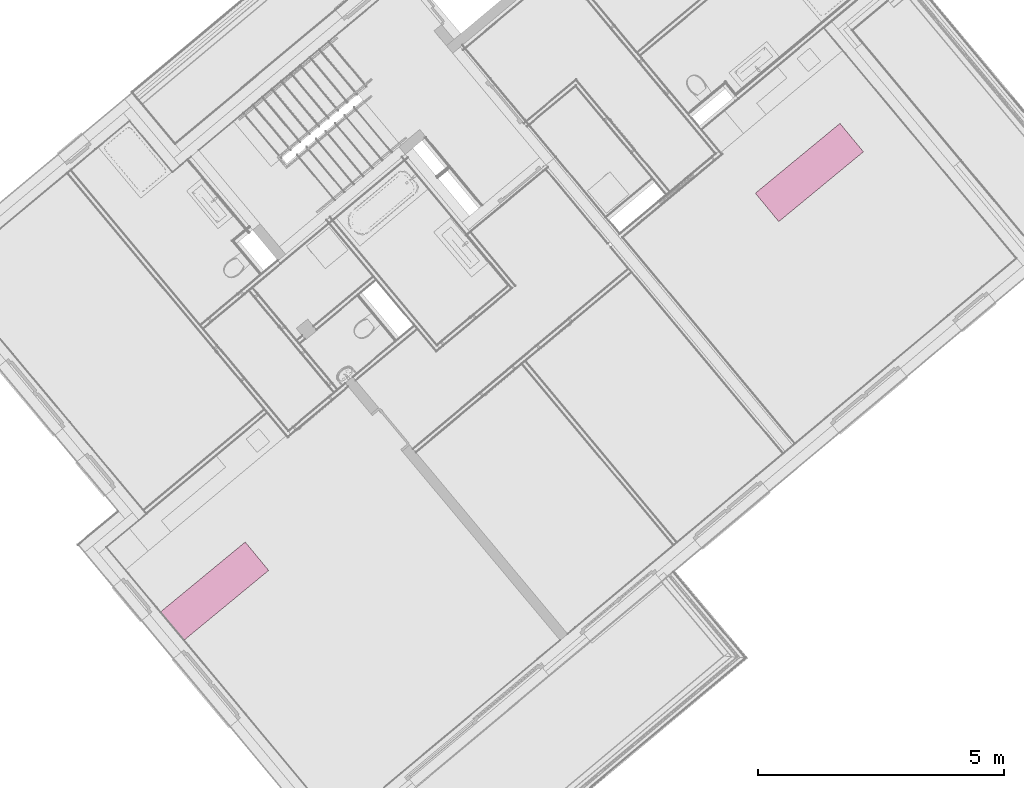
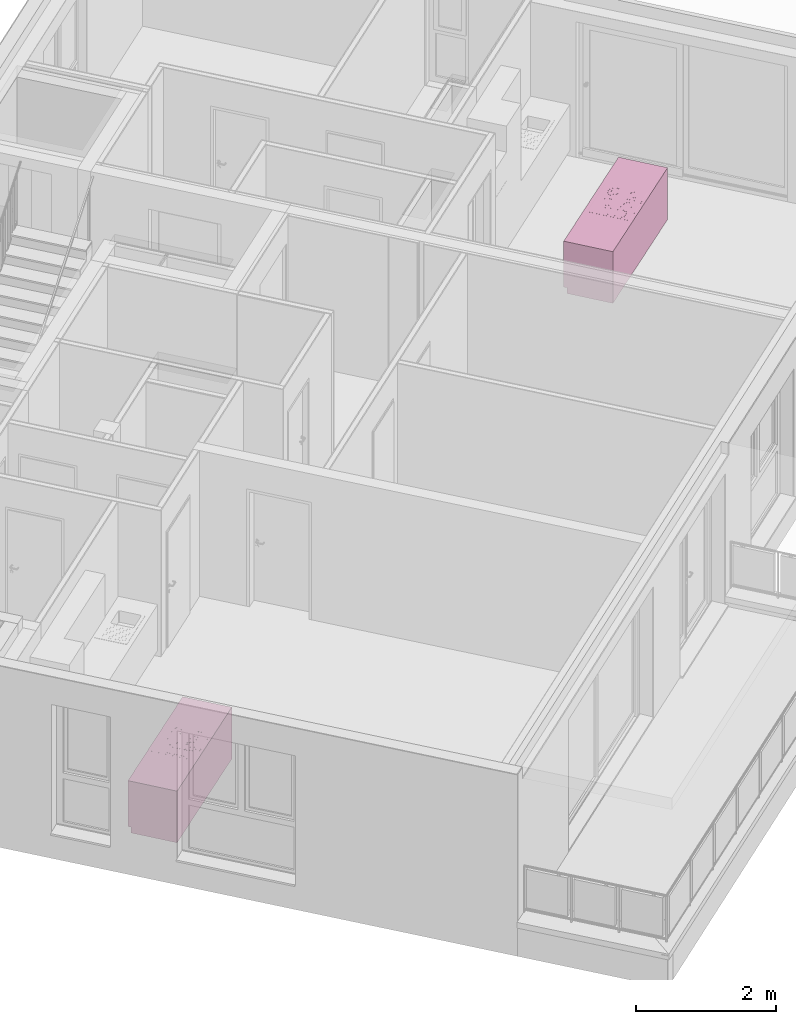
# One storey, part 48 of 50: 2 furniture elements.
"""IFC4 building model written with IfcOpenShell, lengths in metres."""

import ifcopenshell
import ifcopenshell.guid

model = None  # the IFC model being written
_history = None  # IfcOwnerHistory: only IFC2X3 demands one
_inside = {}  # id of a spatial element -> (the spatial element, [elements in it])
_under = {}  # id of a project, library or spatial element -> (it, [spatial elements below it])
_declared = {}  # id of a project -> (the project, [libraries it declares])
_typed = {}  # id of a type object -> (the type object, [elements of that type])
_made_of = {}  # id of a material, layer set ... -> (it, [elements and type objects made of it])


def new_model(schema):
    """Start an empty IFC model of exactly this schema.

    Asked for "IFC4X3", IfcOpenShell would pick the latest addendum, in which some entities
    have other attributes; the version numbers below select the first issue.
    IFC2X3 requires an IfcOwnerHistory on every rooted entity: one is made here for all.
    """
    global model, _history
    if schema == "IFC4X3":
        model = ifcopenshell.file(schema_version=(4, 3, 0, 0))
    else:
        model = ifcopenshell.file(schema=schema)
    _inside.clear()
    _under.clear()
    _declared.clear()
    _typed.clear()
    _made_of.clear()
    _history = None
    if model.schema == "IFC2X3":
        org = make("IfcOrganization", Name="unknown")
        user = make(
            "IfcPersonAndOrganization",
            ThePerson=make("IfcPerson", FamilyName="unknown"),
            TheOrganization=org,
        )
        app = make(
            "IfcApplication",
            ApplicationDeveloper=org,
            Version="unknown",
            ApplicationFullName="unknown",
            ApplicationIdentifier="unknown",
        )
        _history = make(
            "IfcOwnerHistory",
            OwningUser=user,
            OwningApplication=app,
            ChangeAction="ADDED",
            CreationDate=0,
        )
    return model


def make(cls, **values):
    """One entity of the class cls with the attributes given. An attribute that is None is left unset."""
    return model.create_entity(
        cls, **{name: value for name, value in values.items() if value is not None}
    )


def entity(cls, *values):
    """Any entity or typed value of the class cls, its attributes in the order of the schema. None: left unset."""
    e = model.create_entity(cls)
    for i, value in enumerate(values):
        if value is not None:
            e[i] = value
    return e


def rooted(cls, **values):
    """An entity with a GlobalId (a new one), such as an element, a storey or a relation."""
    return make(cls, GlobalId=ifcopenshell.guid.new(), OwnerHistory=_history, **values)


def si_unit(unit_type, name, prefix=None):
    """IfcSIUnit, for example si_unit("LENGTHUNIT", "METRE", prefix="MILLI")."""
    return make("IfcSIUnit", UnitType=unit_type, Prefix=prefix, Name=name)


def converted_unit(unit_type, name, factor, base, dimensions=None, offset=None):
    """IfcConversionBasedUnit, such as the inch: factor (a typed value) times the base unit."""
    return make(
        "IfcConversionBasedUnit"
        if offset is None
        else "IfcConversionBasedUnitWithOffset",
        ConversionOffset=offset,
        Dimensions=None
        if dimensions is None
        else entity("IfcDimensionalExponents", *dimensions),
        UnitType=unit_type,
        Name=name,
        ConversionFactor=make(
            "IfcMeasureWithUnit", ValueComponent=factor, UnitComponent=base
        ),
    )


def derived_unit(unit_type, elements):
    """IfcDerivedUnit: a product of units, each with its exponent."""
    return make(
        "IfcDerivedUnit",
        Elements=[
            make("IfcDerivedUnitElement", Unit=unit, Exponent=power)
            for unit, power in elements
        ],
        UnitType=unit_type,
    )


def assignment(units):
    """IfcUnitAssignment: the units of a project."""
    return None if units is None else make("IfcUnitAssignment", Units=units)


def point(xyz):
    """IfcCartesianPoint."""
    return None if xyz is None else make("IfcCartesianPoint", Coordinates=xyz)


def direction(xyz):
    """IfcDirection."""
    return None if xyz is None else make("IfcDirection", DirectionRatios=xyz)


def frame(location, z_axis=None, x_axis=None):
    """IfcAxis2Placement3D, a coordinate frame: its origin and axes. An axis left out is left unset."""
    return make(
        "IfcAxis2Placement3D",
        Location=point(location),
        Axis=direction(z_axis),
        RefDirection=direction(x_axis),
    )


def origin_with_axes():
    """The frame at (0, 0, 0) with the z axis (0, 0, 1) and the x axis (1, 0, 0) written out."""
    return frame((0.0, 0.0, 0.0), z_axis=(0.0, 0.0, 1.0), x_axis=(1.0, 0.0, 0.0))


def place(relative_to, where):
    """IfcLocalPlacement: puts the frame where relative to a parent placement (None: the world)."""
    return make(
        "IfcLocalPlacement", PlacementRelTo=relative_to, RelativePlacement=where
    )


def context(
    kind, dimensions, precision=None, world=None, true_north=None, identifier=None
):
    """IfcGeometricRepresentationContext, for example the 3D "Model" context."""
    return make(
        "IfcGeometricRepresentationContext",
        ContextIdentifier=identifier,
        ContextType=kind,
        CoordinateSpaceDimension=dimensions,
        Precision=precision,
        WorldCoordinateSystem=world,
        TrueNorth=true_north,
    )


def subcontext(parent, identifier, kind, view, scale=None):
    """IfcGeometricRepresentationSubContext, for example "Body" below "Model"."""
    return make(
        "IfcGeometricRepresentationSubContext",
        ContextIdentifier=identifier,
        ContextType=kind,
        ParentContext=parent,
        TargetScale=scale,
        TargetView=view,
    )


def project(units=None, contexts=None):
    """IfcProject with its units and contexts."""
    return rooted(
        "IfcProject",
        Name="project",
        RepresentationContexts=contexts,
        UnitsInContext=assignment(units),
    )


def spatial(cls, under=None, at=None, **own):
    """A site, building, storey or space (cls), placed at a placement, below another one or the project."""
    s = rooted(cls, ObjectPlacement=at, **own)
    if under is not None:
        _under.setdefault(under.id(), (under, []))[1].append(s)
    return s


def point_list(points):
    """IfcCartesianPointList2D or 3D."""
    cls = (
        "IfcCartesianPointList2D" if len(points[0]) == 2 else "IfcCartesianPointList3D"
    )
    return make(cls, CoordList=points)


def polygons(points, faces, closed=None, point_numbers=None):
    """IfcPolygonalFaceSet: a face is its outer loop, then its inner loops; points numbered from 1."""
    made = []
    for loops in faces:
        if len(loops) == 1:
            made.append(make("IfcIndexedPolygonalFace", CoordIndex=loops[0]))
        else:
            made.append(
                make(
                    "IfcIndexedPolygonalFaceWithVoids",
                    CoordIndex=loops[0],
                    InnerCoordIndices=loops[1:],
                )
            )
    return make(
        "IfcPolygonalFaceSet",
        Coordinates=point_list(points),
        Closed=closed,
        Faces=made,
        PnIndex=point_numbers,
    )


def shape(context_of_items, identifier, shape_type, items):
    """IfcShapeRepresentation: the items that make up one representation, for example the "Body"."""
    return make(
        "IfcShapeRepresentation",
        ContextOfItems=context_of_items,
        RepresentationIdentifier=identifier,
        RepresentationType=shape_type,
        Items=items,
    )


def source(mapping_origin, context_of_items, identifier, shape_type, items):
    """IfcRepresentationMap: a shape defined once, which mapped items show again and again."""
    return make(
        "IfcRepresentationMap",
        MappingOrigin=mapping_origin,
        MappedRepresentation=shape(context_of_items, identifier, shape_type, items),
    )


def transform(
    local_origin,
    x_axis=None,
    y_axis=None,
    z_axis=None,
    scale=None,
    scale2=None,
    scale3=None,
    uniform=True,
):
    """IfcCartesianTransformationOperator3D, or its non-uniform kind. x_axis, y_axis, z_axis: its Axis1, 2, 3."""
    if uniform:
        return make(
            "IfcCartesianTransformationOperator3D",
            Axis1=direction(x_axis),
            Axis2=direction(y_axis),
            LocalOrigin=point(local_origin),
            Scale=scale,
            Axis3=direction(z_axis),
        )
    return make(
        "IfcCartesianTransformationOperator3DnonUniform",
        Axis1=direction(x_axis),
        Axis2=direction(y_axis),
        LocalOrigin=point(local_origin),
        Scale=scale,
        Axis3=direction(z_axis),
        Scale2=scale2,
        Scale3=scale3,
    )


def mapped(mapping_source, mapping_target):
    """IfcMappedItem: shows the shape of a source again, moved by a transform."""
    return make(
        "IfcMappedItem", MappingSource=mapping_source, MappingTarget=mapping_target
    )


def made_of(thing, what):
    """Note that an element or type object is made of a material, layer set ...; save() writes the relation."""
    if what is not None:
        _made_of.setdefault(what.id(), (what, []))[1].append(thing)
    return thing


def type_object(cls, material=None, **own):
    """A type object (cls), such as IfcWallType, which elements share."""
    return made_of(rooted(cls, **own), material)


def element(
    cls,
    number,
    at=None,
    inside=None,
    cuts=None,
    type_object=None,
    material=None,
    context=None,
    identifier="Body",
    shape_type=None,
    held_by="IfcProductDefinitionShape",
    body=None,
    shapes=None,
    **own,
):
    """One element of the class cls, such as IfcWall. Its Tag is "e" and its number.

    at: its placement. inside: the storey or other place that contains it. cuts: it is an
    opening in that element (IfcRelVoidsElement). A single representation is given by context,
    identifier, shape_type and body (its items); several are given by shapes. held_by: the class
    of the entity that holds the representations. save() writes the other relations.
    """
    e = rooted(cls, Tag="e%d" % number, ObjectPlacement=at, **own)
    if body is not None:
        shapes = [shape(context, identifier, shape_type, body)]
    if shapes is not None:
        e.Representation = make(held_by, Representations=shapes)
    if inside is not None:
        _inside.setdefault(inside.id(), (inside, []))[1].append(e)
    if cuts is not None:
        rooted(
            "IfcRelVoidsElement", RelatingBuildingElement=cuts, RelatedOpeningElement=e
        )
    if type_object is not None:
        _typed.setdefault(type_object.id(), (type_object, []))[1].append(e)
    return made_of(e, material)


def aggregate(whole, parts):
    """IfcRelAggregates: a whole, such as a stair, and the parts it consists of."""
    return rooted("IfcRelAggregates", RelatingObject=whole, RelatedObjects=parts)


def save(model, path):
    """Write the relations noted so far, then the file.

    IfcRelAggregates (storeys below a building ...), IfcRelContainedInSpatialStructure (elements
    in a storey), IfcRelDefinesByType, IfcRelAssociatesMaterial and IfcRelDeclares: one each for
    every whole, place, type object, material and project.
    """
    for whole, parts in _under.values():
        aggregate(whole, parts)
    for where, things in _inside.values():
        rooted(
            "IfcRelContainedInSpatialStructure",
            RelatedElements=things,
            RelatingStructure=where,
        )
    for kind, things in _typed.values():
        rooted("IfcRelDefinesByType", RelatedObjects=things, RelatingType=kind)
    for what, things in _made_of.values():
        rooted("IfcRelAssociatesMaterial", RelatedObjects=things, RelatingMaterial=what)
    for by, libraries in _declared.values():
        rooted("IfcRelDeclares", RelatingContext=by, RelatedDefinitions=libraries)
    model.write(path)


model = new_model("IFC4")

# Units and contexts
model_context = context("Model", 3, precision=1e-05, world=origin_with_axes(), true_north=direction((0.0, 1.0)))
body_context = subcontext(model_context, "Body", "Model", "MODEL_VIEW")
ifc_project = project(units=[si_unit("LENGTHUNIT", "METRE"), si_unit("AREAUNIT", "SQUARE_METRE"), si_unit("VOLUMEUNIT", "CUBIC_METRE"), converted_unit("PLANEANGLEUNIT", "DEGREE", entity("IfcPlaneAngleMeasure", 0.0174532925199), si_unit("PLANEANGLEUNIT", "RADIAN"), dimensions=[0, 0, 0, 0, 0, 0, 0]), converted_unit("TIMEUNIT", "Year", entity("IfcTimeMeasure", 31556926.0), si_unit("TIMEUNIT", "SECOND"), dimensions=[0, 0, 1, 0, 0, 0, 0]), si_unit("MASSUNIT", "GRAM", prefix="KILO"), si_unit("THERMODYNAMICTEMPERATUREUNIT", "DEGREE_CELSIUS"), si_unit("LUMINOUSINTENSITYUNIT", "LUMEN"), si_unit("ENERGYUNIT", "JOULE", prefix="MEGA"), derived_unit("THERMALCONDUCTANCEUNIT", [(si_unit("POWERUNIT", "WATT"), 1), (si_unit("LENGTHUNIT", "METRE"), -1), (si_unit("THERMODYNAMICTEMPERATUREUNIT", "KELVIN"), -1)]), derived_unit("SPECIFICHEATCAPACITYUNIT", [(si_unit("ENERGYUNIT", "JOULE"), 1), (si_unit("MASSUNIT", "GRAM", prefix="KILO"), -1), (si_unit("THERMODYNAMICTEMPERATUREUNIT", "KELVIN"), -1)]), derived_unit("MASSDENSITYUNIT", [(si_unit("MASSUNIT", "GRAM", prefix="KILO"), 1), (si_unit("VOLUMEUNIT", "CUBIC_METRE"), -1)])], contexts=[model_context])

# Site, building, storey
site_placement = place(None, frame((-0.00153261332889, -0.00661245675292, 0.0), z_axis=(0.0, 0.0, 1.0), x_axis=(1.0, 0.0, 0.0)))
site = spatial("IfcSite", under=ifc_project, at=site_placement, Name="Site", CompositionType="ELEMENT")
building_placement = place(site_placement, origin_with_axes())
building = spatial("IfcBuilding", under=site, at=building_placement, Name="Building", CompositionType="ELEMENT")
storey_placement = place(building_placement, frame((0.0, 0.0, 2.74), z_axis=(0.0, 0.0, 1.0), x_axis=(1.0, 0.0, 0.0)))
storey = spatial("IfcBuildingStorey", under=building, at=storey_placement, Name="OG1", CompositionType="ELEMENT", Elevation=2.74)

# Furniture
furniture_type = type_object("IfcFurnitureType", Name="Konzeptküche 26", AssemblyPlace="NOTDEFINED", PredefinedType="NOTDEFINED")
shared_shape = source(origin_with_axes(), body_context, "Body", "Tessellation", [
    polygons([(0.451386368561, 0.0111886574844, 0.0), (2.6840690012, -0.00300580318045, 0.0), (2.6840690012, -0.00300580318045, 0.1), (0.451386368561, 0.0111886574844, 0.1), (0.455836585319, 0.711174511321, 0.0), (2.68851921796, 0.696980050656, 0.0), (2.68851921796, 0.696980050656, 0.1), (0.455836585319, 0.711174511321, 0.1)], [[[1, 2, 3, 4]], [[1, 5, 6, 2]], [[2, 6, 7, 3]], [[4, 3, 7, 8]], [[5, 1, 4, 8]], [[6, 5, 8, 7]]], closed=True),
    polygons([(0.451386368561, 0.0111886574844, 0.85), (2.6840690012, -0.00300580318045, 0.85), (2.6840690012, -0.00300580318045, 0.9), (0.451386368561, 0.0111886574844, 0.9), (0.456154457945, 0.76117350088, 0.85), (2.68883709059, 0.746979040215, 0.85), (2.68883709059, 0.746979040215, 0.9), (0.456154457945, 0.76117350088, 0.9)], [[[1, 2, 3, 4]], [[1, 5, 6, 2]], [[2, 6, 7, 3]], [[4, 3, 7, 8]], [[5, 1, 4, 8]], [[6, 5, 8, 7]]], closed=True),
    polygons([(0.451386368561, 0.0111886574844, 0.1), (2.6840690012, -0.00300580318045, 0.1), (2.6840690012, -0.00300580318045, 0.85), (0.451386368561, 0.0111886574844, 0.85), (0.456154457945, 0.76117350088, 0.1), (2.68883709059, 0.746979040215, 0.1), (2.68883709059, 0.746979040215, 0.85), (0.456154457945, 0.76117350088, 0.85)], [[[1, 2, 3, 4]], [[1, 5, 6, 2]], [[2, 6, 7, 3]], [[4, 3, 7, 8]], [[5, 1, 4, 8]], [[6, 5, 8, 7]]], closed=True),
    polygons([(2.01007115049, 0.701293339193, 0.9), (2.00593880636, 0.0513064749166, 0.9), (1.25595396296, 0.0560745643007, 0.9), (1.26008630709, 0.706061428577, 0.9), (2.01007115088, 0.70129333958, 0.9008), (2.00593880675, 0.0513064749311, 0.9008), (1.25595396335, 0.0560745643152, 0.9008), (1.26008630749, 0.706061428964, 0.9008), (2.00322248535, 0.694531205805, 0.901999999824), (1.99917667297, 0.0581551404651, 0.901999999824), (1.26280262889, 0.0628366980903, 0.901999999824), (1.26684844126, 0.69921276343, 0.901999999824)], [[[1, 2, 3, 4]], [[2, 1, 5, 6]], [[3, 2, 6, 7]], [[4, 3, 7, 8]], [[1, 4, 8, 5]], [[6, 5, 9, 10]], [[7, 6, 10, 11]], [[8, 7, 11, 12]], [[5, 8, 12, 9]], [[11, 10, 9, 12]]], closed=True),
    polygons([(1.95268579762, 0.208298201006, 0.902), (1.94734355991, 0.236077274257, 0.902), (1.94734355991, 0.236077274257, 0.903), (1.95268579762, 0.208298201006, 0.903), (1.9469907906, 0.180589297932, 0.902), (1.93112555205, 0.157168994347, 0.902), (1.9075054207, 0.141602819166, 0.902), (1.87972634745, 0.136260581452, 0.902), (1.85201744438, 0.141955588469, 0.902), (1.82859714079, 0.157820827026, 0.902), (1.81303096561, 0.181440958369, 0.902), (1.8076887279, 0.20922003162, 0.902), (1.81338373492, 0.236928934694, 0.902), (1.82924897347, 0.260349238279, 0.902), (1.85286910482, 0.275915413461, 0.902), (1.88064817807, 0.281257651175, 0.902), (1.90835708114, 0.275562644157, 0.902), (1.93177738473, 0.259697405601, 0.902), (1.94768589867, 0.208329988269, 0.902), (1.94271209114, 0.234193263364, 0.902), (1.92821944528, 0.256184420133, 0.902), (1.90641433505, 0.270955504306, 0.902), (1.8806163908, 0.276257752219, 0.902), (1.85475311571, 0.271283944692, 0.902), (1.83276195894, 0.256791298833, 0.902), (1.81799087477, 0.234986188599, 0.902), (1.81268862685, 0.209188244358, 0.902), (1.81766243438, 0.183324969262, 0.902), (1.83215508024, 0.161333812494, 0.902), (1.85396019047, 0.146562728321, 0.902), (1.87975813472, 0.141260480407, 0.902), (1.90562140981, 0.146234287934, 0.902), (1.92761256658, 0.160726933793, 0.902), (1.94238365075, 0.182532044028, 0.902), (1.93177738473, 0.259697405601, 0.903), (1.90835708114, 0.275562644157, 0.903), (1.88064817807, 0.281257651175, 0.903), (1.85286910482, 0.275915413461, 0.903), (1.82924897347, 0.260349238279, 0.903), (1.81338373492, 0.236928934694, 0.903), (1.8076887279, 0.20922003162, 0.903), (1.81303096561, 0.181440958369, 0.903), (1.82859714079, 0.157820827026, 0.903), (1.85201744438, 0.141955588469, 0.903), (1.87972634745, 0.136260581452, 0.903), (1.9075054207, 0.141602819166, 0.903), (1.93112555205, 0.157168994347, 0.903), (1.9469907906, 0.180589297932, 0.903), (1.94768589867, 0.208329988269, 0.903), (1.94238365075, 0.182532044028, 0.903), (1.92761256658, 0.160726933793, 0.903), (1.90562140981, 0.146234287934, 0.903), (1.87975813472, 0.141260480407, 0.903), (1.85396019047, 0.146562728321, 0.903), (1.83215508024, 0.161333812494, 0.903), (1.81766243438, 0.183324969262, 0.903), (1.81268862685, 0.209188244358, 0.903), (1.81799087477, 0.234986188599, 0.903), (1.83276195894, 0.256791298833, 0.903), (1.85475311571, 0.271283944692, 0.903), (1.8806163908, 0.276257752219, 0.903), (1.90641433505, 0.270955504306, 0.903), (1.92821944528, 0.256184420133, 0.903), (1.94271209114, 0.234193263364, 0.903)], [[[1, 2, 3, 4]], [[1, 5, 6, 7, 8, 9, 10, 11, 12, 13, 14, 15, 16, 17, 18, 2], [19, 20, 21, 22, 23, 24, 25, 26, 27, 28, 29, 30, 31, 32, 33, 34]], [[2, 18, 35, 3]], [[4, 3, 35, 36, 37, 38, 39, 40, 41, 42, 43, 44, 45, 46, 47, 48], [49, 50, 51, 52, 53, 54, 55, 56, 57, 58, 59, 60, 61, 62, 63, 64]], [[5, 1, 4, 48]], [[6, 5, 48, 47]], [[7, 6, 47, 46]], [[8, 7, 46, 45]], [[9, 8, 45, 44]], [[10, 9, 44, 43]], [[11, 10, 43, 42]], [[12, 11, 42, 41]], [[13, 12, 41, 40]], [[14, 13, 40, 39]], [[15, 14, 39, 38]], [[16, 15, 38, 37]], [[17, 16, 37, 36]], [[18, 17, 36, 35]], [[20, 19, 49, 64]], [[21, 20, 64, 63]], [[22, 21, 63, 62]], [[23, 22, 62, 61]], [[24, 23, 61, 60]], [[25, 24, 60, 59]], [[26, 25, 59, 58]], [[27, 26, 58, 57]], [[28, 27, 57, 56]], [[29, 28, 56, 55]], [[30, 29, 55, 54]], [[31, 30, 54, 53]], [[32, 31, 53, 52]], [[33, 32, 52, 51]], [[34, 33, 51, 50]], [[19, 34, 50, 49]]], closed=True),
    polygons([(1.9127590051, 0.495207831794, 0.902), (1.90833784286, 0.518197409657, 0.902), (1.90833784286, 0.518197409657, 0.903), (1.9127590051, 0.495207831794, 0.903), (1.90804589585, 0.472276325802, 0.902), (1.89491604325, 0.452894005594, 0.902), (1.87536834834, 0.44001165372, 0.902), (1.85237877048, 0.435590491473, 0.902), (1.82944726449, 0.440303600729, 0.902), (1.81006494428, 0.453433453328, 0.902), (1.7971825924, 0.472981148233, 0.902), (1.79276143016, 0.495970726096, 0.902), (1.79747453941, 0.518902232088, 0.902), (1.81060439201, 0.538284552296, 0.902), (1.83015208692, 0.551166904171, 0.902), (1.85314166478, 0.555588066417, 0.902), (1.87607317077, 0.550874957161, 0.902), (1.89545549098, 0.537745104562, 0.902), (1.90775910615, 0.495239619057, 0.902), (1.90370637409, 0.516313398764, 0.902), (1.89189755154, 0.534232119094, 0.902), (1.87413042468, 0.546267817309, 0.902), (1.85310987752, 0.550588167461, 0.902), (1.83203609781, 0.546535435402, 0.902), (1.81411737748, 0.53472661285, 0.902), (1.80208167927, 0.516959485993, 0.902), (1.79776132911, 0.495938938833, 0.902), (1.80181406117, 0.474865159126, 0.902), (1.81362288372, 0.456946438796, 0.902), (1.83139001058, 0.444910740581, 0.902), (1.85241055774, 0.440590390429, 0.902), (1.87348433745, 0.444643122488, 0.902), (1.89140305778, 0.45645194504, 0.902), (1.90343875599, 0.474219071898, 0.902), (1.89545549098, 0.537745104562, 0.903), (1.87607317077, 0.550874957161, 0.903), (1.85314166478, 0.555588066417, 0.903), (1.83015208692, 0.551166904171, 0.903), (1.81060439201, 0.538284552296, 0.903), (1.79747453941, 0.518902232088, 0.903), (1.79276143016, 0.495970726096, 0.903), (1.7971825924, 0.472981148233, 0.903), (1.81006494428, 0.453433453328, 0.903), (1.82944726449, 0.440303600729, 0.903), (1.85237877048, 0.435590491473, 0.903), (1.87536834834, 0.44001165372, 0.903), (1.89491604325, 0.452894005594, 0.903), (1.90804589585, 0.472276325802, 0.903), (1.90775910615, 0.495239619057, 0.903), (1.90343875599, 0.474219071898, 0.903), (1.89140305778, 0.45645194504, 0.903), (1.87348433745, 0.444643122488, 0.903), (1.85241055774, 0.440590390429, 0.903), (1.83139001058, 0.444910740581, 0.903), (1.81362288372, 0.456946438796, 0.903), (1.80181406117, 0.474865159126, 0.903), (1.79776132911, 0.495938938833, 0.903), (1.80208167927, 0.516959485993, 0.903), (1.81411737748, 0.53472661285, 0.903), (1.83203609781, 0.546535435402, 0.903), (1.85310987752, 0.550588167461, 0.903), (1.87413042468, 0.546267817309, 0.903), (1.89189755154, 0.534232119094, 0.903), (1.90370637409, 0.516313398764, 0.903)], [[[1, 2, 3, 4]], [[1, 5, 6, 7, 8, 9, 10, 11, 12, 13, 14, 15, 16, 17, 18, 2], [19, 20, 21, 22, 23, 24, 25, 26, 27, 28, 29, 30, 31, 32, 33, 34]], [[2, 18, 35, 3]], [[4, 3, 35, 36, 37, 38, 39, 40, 41, 42, 43, 44, 45, 46, 47, 48], [49, 50, 51, 52, 53, 54, 55, 56, 57, 58, 59, 60, 61, 62, 63, 64]], [[5, 1, 4, 48]], [[6, 5, 48, 47]], [[7, 6, 47, 46]], [[8, 7, 46, 45]], [[9, 8, 45, 44]], [[10, 9, 44, 43]], [[11, 10, 43, 42]], [[12, 11, 42, 41]], [[13, 12, 41, 40]], [[14, 13, 40, 39]], [[15, 14, 39, 38]], [[16, 15, 38, 37]], [[17, 16, 37, 36]], [[18, 17, 36, 35]], [[20, 19, 49, 64]], [[21, 20, 64, 63]], [[22, 21, 63, 62]], [[23, 22, 62, 61]], [[24, 23, 61, 60]], [[25, 24, 60, 59]], [[26, 25, 59, 58]], [[27, 26, 58, 57]], [[28, 27, 57, 56]], [[29, 28, 56, 55]], [[30, 29, 55, 54]], [[31, 30, 54, 53]], [[32, 31, 53, 52]], [[33, 32, 52, 51]], [[34, 33, 51, 50]], [[19, 34, 50, 49]]], closed=True),
    polygons([(1.95775809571, 0.494921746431, 0.902), (1.95002106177, 0.535153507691, 0.902), (1.95002106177, 0.535153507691, 0.903), (1.95775809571, 0.494921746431, 0.903), (1.94951015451, 0.454791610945, 0.902), (1.92653291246, 0.420872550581, 0.902), (1.89232444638, 0.3983284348, 0.902), (1.85209268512, 0.39059140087, 0.902), (1.81196254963, 0.398839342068, 0.902), (1.77804348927, 0.421816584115, 0.902), (1.75549937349, 0.456025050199, 0.902), (1.74776233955, 0.496256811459, 0.902), (1.75601028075, 0.536386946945, 0.902), (1.7789875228, 0.57030600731, 0.902), (1.81319598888, 0.59285012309, 0.902), (1.85342775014, 0.60058715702, 0.902), (1.89355788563, 0.592339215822, 0.902), (1.92747694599, 0.569361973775, 0.902), (1.95275819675, 0.494953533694, 0.902), (1.94538959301, 0.533269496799, 0.902), (1.92391900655, 0.565848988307, 0.902), (1.89161513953, 0.587732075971, 0.902), (1.85339596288, 0.595587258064, 0.902), (1.81507999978, 0.588218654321, 0.902), (1.78250050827, 0.566748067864, 0.902), (1.7606174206, 0.53444420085, 0.902), (1.75276223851, 0.496225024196, 0.902), (1.76013084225, 0.457909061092, 0.902), (1.78160142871, 0.425329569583, 0.902), (1.81390529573, 0.403446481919, 0.902), (1.85212447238, 0.395591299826, 0.902), (1.89044043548, 0.402959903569, 0.902), (1.92301992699, 0.424430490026, 0.902), (1.94490301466, 0.456734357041, 0.902), (1.92747694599, 0.569361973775, 0.903), (1.89355788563, 0.592339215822, 0.903), (1.85342775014, 0.60058715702, 0.903), (1.81319598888, 0.59285012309, 0.903), (1.7789875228, 0.57030600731, 0.903), (1.75601028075, 0.536386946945, 0.903), (1.74776233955, 0.496256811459, 0.903), (1.75549937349, 0.456025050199, 0.903), (1.77804348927, 0.421816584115, 0.903), (1.81196254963, 0.398839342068, 0.903), (1.85209268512, 0.39059140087, 0.903), (1.89232444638, 0.3983284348, 0.903), (1.92653291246, 0.420872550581, 0.903), (1.94951015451, 0.454791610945, 0.903), (1.95275819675, 0.494953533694, 0.903), (1.94490301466, 0.456734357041, 0.903), (1.92301992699, 0.424430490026, 0.903), (1.89044043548, 0.402959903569, 0.903), (1.85212447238, 0.395591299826, 0.903), (1.81390529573, 0.403446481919, 0.903), (1.78160142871, 0.425329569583, 0.903), (1.76013084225, 0.457909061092, 0.903), (1.75276223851, 0.496225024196, 0.903), (1.7606174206, 0.53444420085, 0.903), (1.78250050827, 0.566748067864, 0.903), (1.81507999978, 0.588218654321, 0.903), (1.85339596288, 0.595587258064, 0.903), (1.89161513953, 0.587732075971, 0.903), (1.92391900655, 0.565848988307, 0.903), (1.94538959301, 0.533269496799, 0.903)], [[[1, 2, 3, 4]], [[1, 5, 6, 7, 8, 9, 10, 11, 12, 13, 14, 15, 16, 17, 18, 2], [19, 20, 21, 22, 23, 24, 25, 26, 27, 28, 29, 30, 31, 32, 33, 34]], [[2, 18, 35, 3]], [[4, 3, 35, 36, 37, 38, 39, 40, 41, 42, 43, 44, 45, 46, 47, 48], [49, 50, 51, 52, 53, 54, 55, 56, 57, 58, 59, 60, 61, 62, 63, 64]], [[5, 1, 4, 48]], [[6, 5, 48, 47]], [[7, 6, 47, 46]], [[8, 7, 46, 45]], [[9, 8, 45, 44]], [[10, 9, 44, 43]], [[11, 10, 43, 42]], [[12, 11, 42, 41]], [[13, 12, 41, 40]], [[14, 13, 40, 39]], [[15, 14, 39, 38]], [[16, 15, 38, 37]], [[17, 16, 37, 36]], [[18, 17, 36, 35]], [[20, 19, 49, 64]], [[21, 20, 64, 63]], [[22, 21, 63, 62]], [[23, 22, 62, 61]], [[24, 23, 61, 60]], [[25, 24, 60, 59]], [[26, 25, 59, 58]], [[27, 26, 58, 57]], [[28, 27, 57, 56]], [[29, 28, 56, 55]], [[30, 29, 55, 54]], [[31, 30, 54, 53]], [[32, 31, 53, 52]], [[33, 32, 52, 51]], [[34, 33, 51, 50]], [[19, 34, 50, 49]]], closed=True),
    polygons([(1.67867067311, 0.206790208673, 0.902), (1.67351265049, 0.233611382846, 0.902), (1.67351265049, 0.233611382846, 0.903), (1.67867067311, 0.206790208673, 0.903), (1.67317204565, 0.180036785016, 0.902), (1.65785388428, 0.157424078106, 0.902), (1.63504824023, 0.142394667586, 0.902), (1.60822706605, 0.137236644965, 0.902), (1.5814736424, 0.142735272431, 0.902), (1.55886093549, 0.158053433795, 0.902), (1.54383152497, 0.180859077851, 0.902), (1.53867350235, 0.207680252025, 0.902), (1.54417212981, 0.234433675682, 0.902), (1.55949029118, 0.257046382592, 0.902), (1.58229593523, 0.272075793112, 0.902), (1.60911710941, 0.277233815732, 0.902), (1.63587053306, 0.271735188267, 0.902), (1.65848323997, 0.256417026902, 0.902), (1.67367077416, 0.206821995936, 0.902), (1.66888118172, 0.231727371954, 0.902), (1.65492530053, 0.252904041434, 0.902), (1.63392778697, 0.267128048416, 0.902), (1.60908532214, 0.272233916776, 0.902), (1.58417994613, 0.267444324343, 0.902), (1.56300327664, 0.253488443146, 0.902), (1.54877926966, 0.232490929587, 0.902), (1.5436734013, 0.207648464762, 0.902), (1.54846299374, 0.182743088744, 0.902), (1.56241887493, 0.161566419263, 0.902), (1.58341638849, 0.147342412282, 0.902), (1.60825885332, 0.142236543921, 0.902), (1.63316422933, 0.147026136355, 0.902), (1.65434089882, 0.160982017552, 0.902), (1.6685649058, 0.181979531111, 0.902), (1.65848323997, 0.256417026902, 0.903), (1.63587053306, 0.271735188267, 0.903), (1.60911710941, 0.277233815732, 0.903), (1.58229593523, 0.272075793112, 0.903), (1.55949029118, 0.257046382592, 0.903), (1.54417212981, 0.234433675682, 0.903), (1.53867350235, 0.207680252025, 0.903), (1.54383152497, 0.180859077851, 0.903), (1.55886093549, 0.158053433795, 0.903), (1.5814736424, 0.142735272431, 0.903), (1.60822706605, 0.137236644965, 0.903), (1.63504824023, 0.142394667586, 0.903), (1.65785388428, 0.157424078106, 0.903), (1.67317204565, 0.180036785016, 0.903), (1.67367077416, 0.206821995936, 0.903), (1.6685649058, 0.181979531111, 0.903), (1.65434089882, 0.160982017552, 0.903), (1.63316422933, 0.147026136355, 0.903), (1.60825885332, 0.142236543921, 0.903), (1.58341638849, 0.147342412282, 0.903), (1.56241887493, 0.161566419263, 0.903), (1.54846299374, 0.182743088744, 0.903), (1.5436734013, 0.207648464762, 0.903), (1.54877926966, 0.232490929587, 0.903), (1.56300327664, 0.253488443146, 0.903), (1.58417994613, 0.267444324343, 0.903), (1.60908532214, 0.272233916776, 0.903), (1.63392778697, 0.267128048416, 0.903), (1.65492530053, 0.252904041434, 0.903), (1.66888118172, 0.231727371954, 0.903)], [[[1, 2, 3, 4]], [[1, 5, 6, 7, 8, 9, 10, 11, 12, 13, 14, 15, 16, 17, 18, 2], [19, 20, 21, 22, 23, 24, 25, 26, 27, 28, 29, 30, 31, 32, 33, 34]], [[2, 18, 35, 3]], [[4, 3, 35, 36, 37, 38, 39, 40, 41, 42, 43, 44, 45, 46, 47, 48], [49, 50, 51, 52, 53, 54, 55, 56, 57, 58, 59, 60, 61, 62, 63, 64]], [[5, 1, 4, 48]], [[6, 5, 48, 47]], [[7, 6, 47, 46]], [[8, 7, 46, 45]], [[9, 8, 45, 44]], [[10, 9, 44, 43]], [[11, 10, 43, 42]], [[12, 11, 42, 41]], [[13, 12, 41, 40]], [[14, 13, 40, 39]], [[15, 14, 39, 38]], [[16, 15, 38, 37]], [[17, 16, 37, 36]], [[18, 17, 36, 35]], [[20, 19, 49, 64]], [[21, 20, 64, 63]], [[22, 21, 63, 62]], [[23, 22, 62, 61]], [[24, 23, 61, 60]], [[25, 24, 60, 59]], [[26, 25, 59, 58]], [[27, 26, 58, 57]], [[28, 27, 57, 56]], [[29, 28, 56, 55]], [[30, 29, 55, 54]], [[31, 30, 54, 53]], [[32, 31, 53, 52]], [[33, 32, 52, 51]], [[34, 33, 51, 50]], [[19, 34, 50, 49]]], closed=True),
    polygons([(1.67698381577, 0.511657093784, 0.902), (1.6703520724, 0.546141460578, 0.902), (1.6703520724, 0.546141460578, 0.903), (1.67698381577, 0.511657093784, 0.903), (1.66991415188, 0.477259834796, 0.902), (1.65021937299, 0.448186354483, 0.902), (1.62089783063, 0.428862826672, 0.902), (1.58641346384, 0.422231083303, 0.902), (1.55201620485, 0.429300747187, 0.902), (1.52294272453, 0.448995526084, 0.902), (1.50361919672, 0.478317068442, 0.902), (1.49698745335, 0.512801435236, 0.902), (1.50405711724, 0.547198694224, 0.902), (1.52375189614, 0.576272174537, 0.902), (1.55307343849, 0.595595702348, 0.902), (1.58755780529, 0.602227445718, 0.902), (1.62195506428, 0.595157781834, 0.902), (1.65102854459, 0.575463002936, 0.902), (1.67198391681, 0.511688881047, 0.902), (1.66572060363, 0.544257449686, 0.902), (1.64747060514, 0.571950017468, 0.902), (1.62001231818, 0.590550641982, 0.902), (1.58752601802, 0.597227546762, 0.902), (1.55495744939, 0.590964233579, 0.902), (1.5272648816, 0.572714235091, 0.902), (1.50866425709, 0.545255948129, 0.902), (1.50198735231, 0.512769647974, 0.902), (1.50825066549, 0.480201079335, 0.902), (1.52650066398, 0.452508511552, 0.902), (1.55395895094, 0.433907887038, 0.902), (1.5864452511, 0.427230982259, 0.902), (1.61901381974, 0.433494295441, 0.902), (1.64670638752, 0.451744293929, 0.902), (1.66530701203, 0.479202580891, 0.902), (1.65102854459, 0.575463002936, 0.903), (1.62195506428, 0.595157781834, 0.903), (1.58755780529, 0.602227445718, 0.903), (1.55307343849, 0.595595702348, 0.903), (1.52375189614, 0.576272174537, 0.903), (1.50405711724, 0.547198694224, 0.903), (1.49698745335, 0.512801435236, 0.903), (1.50361919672, 0.478317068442, 0.903), (1.52294272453, 0.448995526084, 0.903), (1.55201620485, 0.429300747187, 0.903), (1.58641346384, 0.422231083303, 0.903), (1.62089783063, 0.428862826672, 0.903), (1.65021937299, 0.448186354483, 0.903), (1.66991415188, 0.477259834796, 0.903), (1.67198391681, 0.511688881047, 0.903), (1.66530701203, 0.479202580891, 0.903), (1.64670638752, 0.451744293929, 0.903), (1.61901381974, 0.433494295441, 0.903), (1.5864452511, 0.427230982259, 0.903), (1.55395895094, 0.433907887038, 0.903), (1.52650066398, 0.452508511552, 0.903), (1.50825066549, 0.480201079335, 0.903), (1.50198735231, 0.512769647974, 0.903), (1.50866425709, 0.545255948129, 0.903), (1.5272648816, 0.572714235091, 0.903), (1.55495744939, 0.590964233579, 0.903), (1.58752601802, 0.597227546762, 0.903), (1.62001231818, 0.590550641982, 0.903), (1.64747060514, 0.571950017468, 0.903), (1.66572060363, 0.544257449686, 0.903)], [[[1, 2, 3, 4]], [[1, 5, 6, 7, 8, 9, 10, 11, 12, 13, 14, 15, 16, 17, 18, 2], [19, 20, 21, 22, 23, 24, 25, 26, 27, 28, 29, 30, 31, 32, 33, 34]], [[2, 18, 35, 3]], [[4, 3, 35, 36, 37, 38, 39, 40, 41, 42, 43, 44, 45, 46, 47, 48], [49, 50, 51, 52, 53, 54, 55, 56, 57, 58, 59, 60, 61, 62, 63, 64]], [[5, 1, 4, 48]], [[6, 5, 48, 47]], [[7, 6, 47, 46]], [[8, 7, 46, 45]], [[9, 8, 45, 44]], [[10, 9, 44, 43]], [[11, 10, 43, 42]], [[12, 11, 42, 41]], [[13, 12, 41, 40]], [[14, 13, 40, 39]], [[15, 14, 39, 38]], [[16, 15, 38, 37]], [[17, 16, 37, 36]], [[18, 17, 36, 35]], [[20, 19, 49, 64]], [[21, 20, 64, 63]], [[22, 21, 63, 62]], [[23, 22, 62, 61]], [[24, 23, 61, 60]], [[25, 24, 60, 59]], [[26, 25, 59, 58]], [[27, 26, 58, 57]], [[28, 27, 57, 56]], [[29, 28, 56, 55]], [[30, 29, 55, 54]], [[31, 30, 54, 53]], [[32, 31, 53, 52]], [[33, 32, 52, 51]], [[34, 33, 51, 50]], [[19, 34, 50, 49]]], closed=True),
    polygons([(1.72815115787, 0.294201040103, 0.902), (1.49030841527, 0.295713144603, 0.902), (1.49030841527, 0.295713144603, 0.903), (1.72815115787, 0.294201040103, 0.903), (1.73655937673, 0.292472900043, 0.902), (1.74366622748, 0.287658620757, 0.902), (1.7483897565, 0.280491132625, 0.902), (1.75001084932, 0.272061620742, 0.902), (1.74917517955, 0.140617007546, 0.902), (1.74744703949, 0.132208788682, 0.902), (1.7426327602, 0.125101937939, 0.902), (1.73546527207, 0.120378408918, 0.902), (1.72703576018, 0.118757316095, 0.902), (1.48919301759, 0.120269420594, 0.902), (1.48078479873, 0.121997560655, 0.902), (1.47367794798, 0.126811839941, 0.902), (1.46895441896, 0.133979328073, 0.902), (1.46733332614, 0.142408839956, 0.902), (1.46816899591, 0.273853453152, 0.902), (1.46989713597, 0.282261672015, 0.902), (1.47471141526, 0.289368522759, 0.902), (1.48187890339, 0.294092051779, 0.902), (1.72406760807, 0.123776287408, 0.902), (1.73173080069, 0.125250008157, 0.902), (1.738246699, 0.129544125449, 0.902), (1.74262331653, 0.136004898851, 0.902), (1.74419435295, 0.143648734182, 0.902), (1.74499187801, 0.269093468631, 0.902), (1.74351815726, 0.276756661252, 0.902), (1.73922403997, 0.283272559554, 0.902), (1.73276326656, 0.287649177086, 0.902), (1.72511943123, 0.289220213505, 0.902), (1.49327656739, 0.290694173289, 0.902), (1.48561337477, 0.28922045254, 0.902), (1.47909747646, 0.284926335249, 0.902), (1.47472085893, 0.278465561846, 0.902), (1.47314982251, 0.270821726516, 0.902), (1.47235229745, 0.145376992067, 0.902), (1.4738260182, 0.137713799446, 0.902), (1.47812013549, 0.131197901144, 0.902), (1.4845809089, 0.126821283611, 0.902), (1.49222474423, 0.125250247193, 0.902), (1.48187890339, 0.294092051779, 0.903), (1.47471141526, 0.289368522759, 0.903), (1.46989713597, 0.282261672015, 0.903), (1.46816899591, 0.273853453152, 0.903), (1.46733332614, 0.142408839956, 0.903), (1.46895441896, 0.133979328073, 0.903), (1.47367794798, 0.126811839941, 0.903), (1.48078479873, 0.121997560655, 0.903), (1.48919301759, 0.120269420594, 0.903), (1.72703576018, 0.118757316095, 0.903), (1.73546527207, 0.120378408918, 0.903), (1.7426327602, 0.125101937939, 0.903), (1.74744703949, 0.132208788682, 0.903), (1.74917517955, 0.140617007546, 0.903), (1.75001084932, 0.272061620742, 0.903), (1.7483897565, 0.280491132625, 0.903), (1.74366622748, 0.287658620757, 0.903), (1.73655937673, 0.292472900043, 0.903), (1.72406760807, 0.123776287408, 0.903), (1.49222474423, 0.125250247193, 0.903), (1.4845809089, 0.126821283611, 0.903), (1.47812013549, 0.131197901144, 0.903), (1.4738260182, 0.137713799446, 0.903), (1.47235229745, 0.145376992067, 0.903), (1.47314982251, 0.270821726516, 0.903), (1.47472085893, 0.278465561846, 0.903), (1.47909747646, 0.284926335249, 0.903), (1.48561337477, 0.28922045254, 0.903), (1.49327656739, 0.290694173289, 0.903), (1.72511943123, 0.289220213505, 0.903), (1.73276326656, 0.287649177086, 0.903), (1.73922403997, 0.283272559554, 0.903), (1.74351815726, 0.276756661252, 0.903), (1.74499187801, 0.269093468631, 0.903), (1.74419435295, 0.143648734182, 0.903), (1.74262331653, 0.136004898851, 0.903), (1.738246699, 0.129544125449, 0.903), (1.73173080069, 0.125250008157, 0.903)], [[[1, 2, 3, 4]], [[1, 5, 6, 7, 8, 9, 10, 11, 12, 13, 14, 15, 16, 17, 18, 19, 20, 21, 22, 2], [23, 24, 25, 26, 27, 28, 29, 30, 31, 32, 33, 34, 35, 36, 37, 38, 39, 40, 41, 42]], [[2, 22, 43, 3]], [[4, 3, 43, 44, 45, 46, 47, 48, 49, 50, 51, 52, 53, 54, 55, 56, 57, 58, 59, 60], [61, 62, 63, 64, 65, 66, 67, 68, 69, 70, 71, 72, 73, 74, 75, 76, 77, 78, 79, 80]], [[5, 1, 4, 60]], [[6, 5, 60, 59]], [[7, 6, 59, 58]], [[8, 7, 58, 57]], [[9, 8, 57, 56]], [[10, 9, 56, 55]], [[11, 10, 55, 54]], [[12, 11, 54, 53]], [[13, 12, 53, 52]], [[14, 13, 52, 51]], [[15, 14, 51, 50]], [[16, 15, 50, 49]], [[17, 16, 49, 48]], [[18, 17, 48, 47]], [[19, 18, 47, 46]], [[20, 19, 46, 45]], [[21, 20, 45, 44]], [[22, 21, 44, 43]], [[24, 23, 61, 80]], [[25, 24, 80, 79]], [[26, 25, 79, 78]], [[27, 26, 78, 77]], [[28, 27, 77, 76]], [[29, 28, 76, 75]], [[30, 29, 75, 74]], [[31, 30, 74, 73]], [[32, 31, 73, 72]], [[33, 32, 72, 71]], [[34, 33, 71, 70]], [[35, 34, 70, 69]], [[36, 35, 69, 68]], [[37, 36, 68, 67]], [[38, 37, 67, 66]], [[39, 38, 66, 65]], [[40, 39, 65, 64]], [[41, 40, 64, 63]], [[42, 41, 63, 62]], [[23, 42, 62, 61]]], closed=True),
    polygons([(1.45676176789, 0.182500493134, 0.902), (1.45859271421, 0.470494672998, 0.902), (1.45859271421, 0.470494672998, 0.903), (1.45676176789, 0.182500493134, 0.903), (1.45471942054, 0.172563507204, 0.902), (1.44902981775, 0.16416450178, 0.902), (1.44055914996, 0.158582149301, 0.902), (1.43059699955, 0.156666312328, 0.902), (1.3225991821, 0.157352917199, 0.902), (1.31266219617, 0.159395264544, 0.902), (1.30426319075, 0.165084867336, 0.902), (1.29868083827, 0.173555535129, 0.902), (1.2967650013, 0.183517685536, 0.902), (1.29859594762, 0.4715118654, 0.902), (1.30063829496, 0.48144885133, 0.902), (1.30632789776, 0.489847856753, 0.902), (1.31479856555, 0.495430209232, 0.902), (1.32476071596, 0.497346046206, 0.902), (1.4327585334, 0.496659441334, 0.902), (1.44269551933, 0.49461709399, 0.902), (1.45109452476, 0.488927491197, 0.902), (1.45667687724, 0.480456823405, 0.902), (1.42562888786, 0.161697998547, 0.902), (1.43559103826, 0.16361383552, 0.902), (1.44406170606, 0.169196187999, 0.902), (1.44975130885, 0.177595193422, 0.902), (1.45179365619, 0.187532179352, 0.902), (1.45356102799, 0.465526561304, 0.902), (1.45164519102, 0.475488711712, 0.902), (1.44606283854, 0.483959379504, 0.902), (1.43766383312, 0.489648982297, 0.902), (1.42772684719, 0.491691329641, 0.902), (1.32972882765, 0.492314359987, 0.902), (1.31976667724, 0.490398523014, 0.902), (1.31129600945, 0.484816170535, 0.902), (1.30560640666, 0.476417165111, 0.902), (1.30356405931, 0.466480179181, 0.902), (1.30179668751, 0.188485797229, 0.902), (1.30371252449, 0.178523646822, 0.902), (1.30929487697, 0.17005297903, 0.902), (1.31769388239, 0.164363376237, 0.902), (1.32763086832, 0.162321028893, 0.902), (1.45667687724, 0.480456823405, 0.903), (1.45109452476, 0.488927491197, 0.903), (1.44269551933, 0.49461709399, 0.903), (1.4327585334, 0.496659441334, 0.903), (1.32476071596, 0.497346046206, 0.903), (1.31479856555, 0.495430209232, 0.903), (1.30632789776, 0.489847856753, 0.903), (1.30063829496, 0.48144885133, 0.903), (1.29859594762, 0.4715118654, 0.903), (1.2967650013, 0.183517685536, 0.903), (1.29868083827, 0.173555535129, 0.903), (1.30426319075, 0.165084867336, 0.903), (1.31266219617, 0.159395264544, 0.903), (1.3225991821, 0.157352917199, 0.903), (1.43059699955, 0.156666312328, 0.903), (1.44055914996, 0.158582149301, 0.903), (1.44902981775, 0.16416450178, 0.903), (1.45471942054, 0.172563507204, 0.903), (1.42562888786, 0.161697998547, 0.903), (1.32763086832, 0.162321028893, 0.903), (1.31769388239, 0.164363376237, 0.903), (1.30929487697, 0.17005297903, 0.903), (1.30371252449, 0.178523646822, 0.903), (1.30179668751, 0.188485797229, 0.903), (1.30356405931, 0.466480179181, 0.903), (1.30560640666, 0.476417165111, 0.903), (1.31129600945, 0.484816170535, 0.903), (1.31976667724, 0.490398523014, 0.903), (1.32972882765, 0.492314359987, 0.903), (1.42772684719, 0.491691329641, 0.903), (1.43766383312, 0.489648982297, 0.903), (1.44606283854, 0.483959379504, 0.903), (1.45164519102, 0.475488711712, 0.903), (1.45356102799, 0.465526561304, 0.903), (1.45179365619, 0.187532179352, 0.903), (1.44975130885, 0.177595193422, 0.903), (1.44406170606, 0.169196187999, 0.903), (1.43559103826, 0.16361383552, 0.903)], [[[1, 2, 3, 4]], [[1, 5, 6, 7, 8, 9, 10, 11, 12, 13, 14, 15, 16, 17, 18, 19, 20, 21, 22, 2], [23, 24, 25, 26, 27, 28, 29, 30, 31, 32, 33, 34, 35, 36, 37, 38, 39, 40, 41, 42]], [[2, 22, 43, 3]], [[4, 3, 43, 44, 45, 46, 47, 48, 49, 50, 51, 52, 53, 54, 55, 56, 57, 58, 59, 60], [61, 62, 63, 64, 65, 66, 67, 68, 69, 70, 71, 72, 73, 74, 75, 76, 77, 78, 79, 80]], [[5, 1, 4, 60]], [[6, 5, 60, 59]], [[7, 6, 59, 58]], [[8, 7, 58, 57]], [[9, 8, 57, 56]], [[10, 9, 56, 55]], [[11, 10, 55, 54]], [[12, 11, 54, 53]], [[13, 12, 53, 52]], [[14, 13, 52, 51]], [[15, 14, 51, 50]], [[16, 15, 50, 49]], [[17, 16, 49, 48]], [[18, 17, 48, 47]], [[19, 18, 47, 46]], [[20, 19, 46, 45]], [[21, 20, 45, 44]], [[22, 21, 44, 43]], [[24, 23, 61, 80]], [[25, 24, 80, 79]], [[26, 25, 79, 78]], [[27, 26, 78, 77]], [[28, 27, 77, 76]], [[29, 28, 76, 75]], [[30, 29, 75, 74]], [[31, 30, 74, 73]], [[32, 31, 73, 72]], [[33, 32, 72, 71]], [[34, 33, 71, 70]], [[35, 34, 70, 69]], [[36, 35, 69, 68]], [[37, 36, 68, 67]], [[38, 37, 67, 66]], [[39, 38, 66, 65]], [[40, 39, 65, 64]], [[41, 40, 64, 63]], [[42, 41, 63, 62]], [[23, 42, 62, 61]]], closed=True),
])
for number, where, z_axis, x_axis, name in (
    (1, (7.63208240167, 20.7799227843, 0.22), (0.0, 0.0, 1.0), (0.767365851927, 0.641209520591, 0.0), "Objekt-0002"),
    (2, (-4.46928317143, 12.262102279, 0.22), (0.0, 0.0, 1.0), (0.767365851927, 0.641209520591, 0.0), "Objekt-0002"),
):
    element("IfcFurniture", number, at=place(storey_placement, frame(where, z_axis=z_axis, x_axis=x_axis)), inside=storey, type_object=furniture_type, Name=name, PredefinedType="NOTDEFINED", context=body_context, shape_type="MappedRepresentation", body=[
        mapped(shared_shape, transform((0.0, 0.0, 0.0))),
    ])

save(model, "model.ifc")
